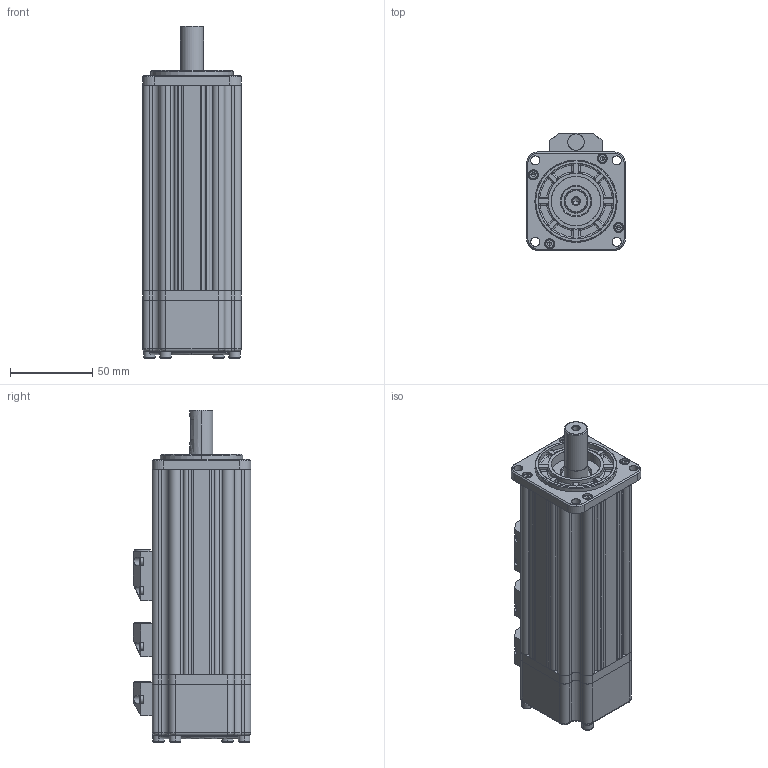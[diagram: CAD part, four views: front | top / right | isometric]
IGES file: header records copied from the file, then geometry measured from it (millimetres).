
Start section: SolidWorks IGES file using analytic representation for surfaces
Global section: file name: D:\estun\qianronghua\2011.2.12（张）\电机外观文件（EMJ02A归档）-2011.2.14\EMJ-04A(APB.ARA-200)wih holding brake.IGS; native system: SolidWorks 2011; preprocessor: SolidWorks 2011; author: qianronghua; date: 110214.161712; units: millimetre
Bounding box: 60 x 71.5 x 202 mm (x, y, z)
Surface area: 80991 mm2 (no closed solid volume)
Topology: 0 solids, 0 shells, 940 faces, 10547 edges, 10464 vertices
Faces by surface type: bspline 503, revolution 437
